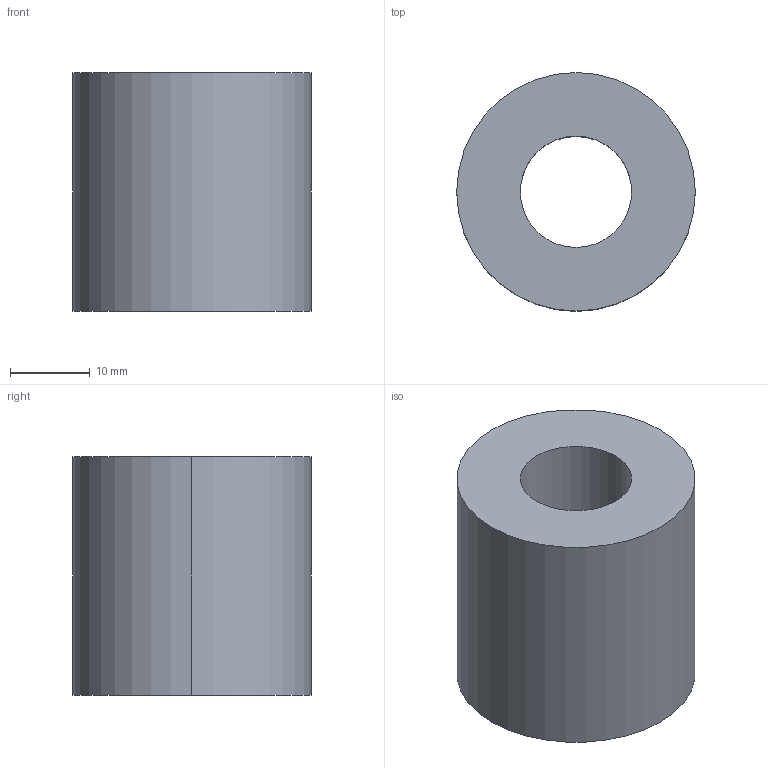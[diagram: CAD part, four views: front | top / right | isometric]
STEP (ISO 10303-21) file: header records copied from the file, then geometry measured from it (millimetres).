
FILE_DESCRIPTION(/* description */ (''),/* implementation_level */ '2;1');
FILE_NAME(/* name */ '3d_pa30-30_04907_r00.stp',/* time_stamp */ '2011-01-10T14:11:58+09:00',/* author */ ('MISUMI'),/* organization */ (''),/* preprocessor_version */ 'ST-DEVELOPER v11',/* originating_system */ 'UGS - NX 5.0',/* authorisation */ '');
FILE_SCHEMA (('CONFIG_CONTROL_DESIGN'));
Length unit declared in the file: millimetre
Products named in the file (1): 3d_pa30-30_04907_r00
Bounding box: 30 x 30 x 30 mm (x, y, z)
Volume: 16587.6 mm3; surface area: 5252.7 mm2
Topology: 1 solids, 1 shells, 6 faces, 12 edges, 8 vertices
Faces by surface type: cylinder 4, plane 2
Entity records: 254 total; most frequent: DIRECTION 34, CARTESIAN_POINT 27, ORIENTED_EDGE 24, AXIS2_PLACEMENT_3D 15, EDGE_CURVE 12, EDGE_LOOP 8, VERTEX_POINT 8, CIRCLE 8
